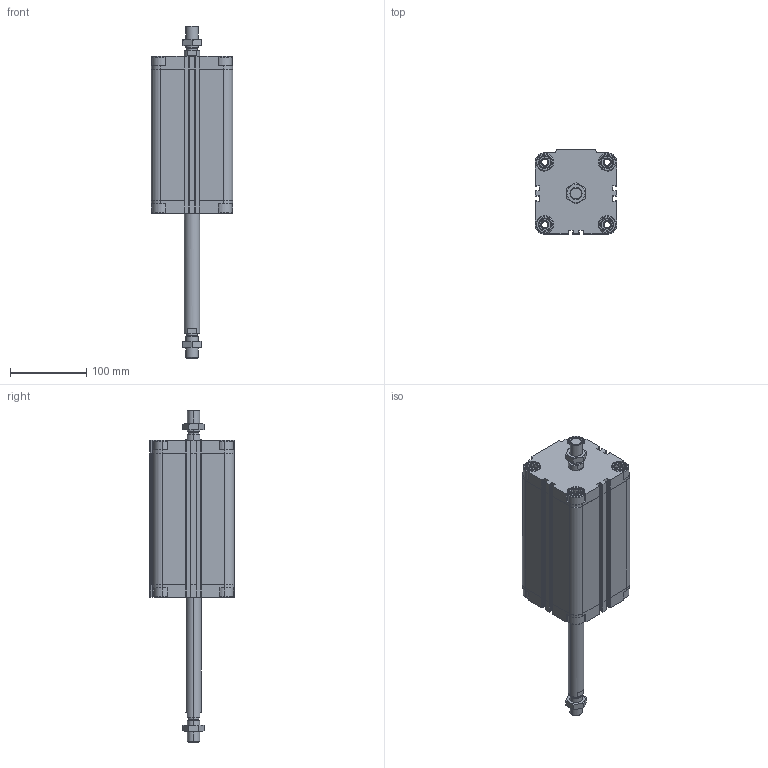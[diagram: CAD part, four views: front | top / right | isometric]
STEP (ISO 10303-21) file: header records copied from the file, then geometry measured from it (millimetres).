
FILE_DESCRIPTION (( 'STEP AP203' ), '1' );
FILE_NAME ('CDVU80-150M-P.STEP', '2020-07-21T15:26:47', ( '' ), ( '' ), 'SwSTEP 2.0', 'SolidWorks 2019', '' );
FILE_SCHEMA (( 'CONFIG_CONTROL_DESIGN' ));
Length unit declared in the file: millimetre
Products named in the file (1): CDVU80-150M-P
Bounding box: 107 x 111 x 436 mm (x, y, z)
Volume: 1551700.8 mm3; surface area: 261633 mm2
Topology: 4 solids, 4 shells, 706 faces, 1888 edges, 1234 vertices
Faces by surface type: plane 410, cylinder 216, cone 80
Entity records: 22967 total; most frequent: CARTESIAN_POINT 5177, ORIENTED_EDGE 3768, DIRECTION 3610, EDGE_CURVE 1884, AXIS2_PLACEMENT_3D 1235, VERTEX_POINT 1234, LINE 1140, VECTOR 1140
